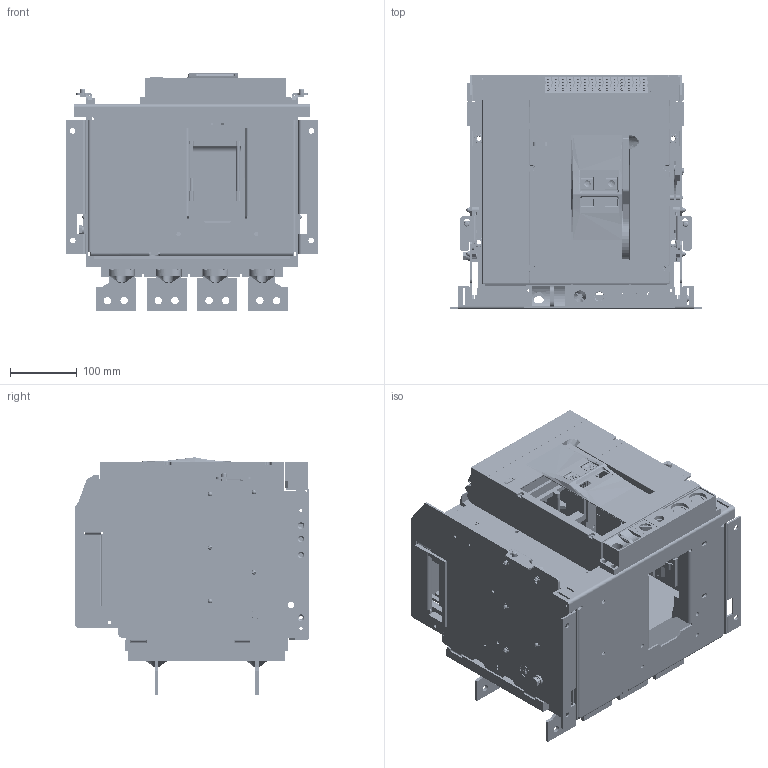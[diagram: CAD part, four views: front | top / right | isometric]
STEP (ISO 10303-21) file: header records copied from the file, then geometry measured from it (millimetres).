
FILE_DESCRIPTION((''),'2;1');
FILE_NAME('NA8G-1600-630-DO-4P-H_ASM','2019-05-31T17:39:44',('lcc'),(''),'CREO PARAMETRIC BY PTC INC, 2018020','CREO PARAMETRIC BY PTC INC, 2018020','');
FILE_SCHEMA(('CONFIG_CONTROL_DESIGN','SHAPE_APPEARANCE_LAYERS_GROUPS'));
Products named in the file (52): 8-024-498; 8-300-164; 8-141-125; 8ZTD-860-349-2; 8-441-081; 5ZTD-024-170_ASM; 8-050-244; 8-960-058; 8-960-056; 8-960-057; 8-960-060; 8-960-059; 8-127-020; 8-125-057; 8-123-120; 8-261-001; 8-125-001; 8-210-176; 5-124-010_ASM; 8-233-301; GBT97_1-4; GBT93-4; GBT818-M4X10; GBT845-ST4_2X9_5C; GBT6170-M8; 5-050-095_ASM; 8-050-243; 8-261-002; 8-125-002; 5-124-011_ASM; GBT97_1-8; GBT93-8; GBT5783-M8X16; 5-050-096_ASM; 8-300-163; 8-015-020; 8ZTD-043-780; 8ZTD-043-781; 8-300-162-2; 8-005-238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
Assembly tree (104 placements, depth 4):
  NA8G-1600-630-DO-4P-H_ASM
    5ZTD-024-170_ASM
      8-024-498
      8-300-164
      8-141-125
      8ZTD-860-349-2
      8-441-081
    5-050-095_ASM
      8-050-244
      8-960-058
      8-960-056
      8-960-057
      8-960-060
      8-960-059
      8-127-020
      8-125-057
      8-123-120
      5-124-010_ASM
        8-261-001
        8-125-001
        8-210-176
      8-233-301
      GBT97_1-4  x5
      GBT93-4  x5
      GBT818-M4X10  x5
      GBT845-ST4_2X9_5C
      GBT6170-M8  x2
    5-050-096_ASM
      8-050-243
      8-125-057
      8-123-120
      5-124-011_ASM
        8-261-002
        8-125-002
        8-210-176
      GBT6170-M8  x2
      GBT97_1-4  x5
      GBT93-4  x5
      GBT818-M4X10  x5
      GBT97_1-8  x2
      GBT93-8
      GBT5783-M8X16
    8-300-163
    8-015-020
    8ZTD-043-780
    8ZTD-043-781
    8-300-162-2
    8-005-238
    8-253-348
    8-253-349
    8-253-309
    5-235-147
    1600-DUANZI-CTS_ASM
      8ZTD-064-138
      8ZTD-024-689  x14
      8ZTD-860-511
    1600-DIJIA-4P
    8ZTD-580-189  x4
    8ZTD-580-190  x4
Bounding box: 378 x 351 x 355 mm (x, y, z)
Volume: 8217690 mm3; surface area: 2102766.1 mm2
Topology: 98 solids, 158 shells, 7756 faces, 21198 edges, 13933 vertices
Faces by surface type: plane 5769, cylinder 1728, cone 134, bspline 50, torus 42, sphere 32, extrusion 1
Entity records: 204497 total; most frequent: CARTESIAN_POINT 30168, ORIENTED_EDGE 27544, DIRECTION 26817, EDGE_CURVE 13783, PRESENTATION_STYLE_ASSIGNMENT 12937, STYLED_ITEM 12900, CURVE_STYLE 12236, VECTOR 10845
